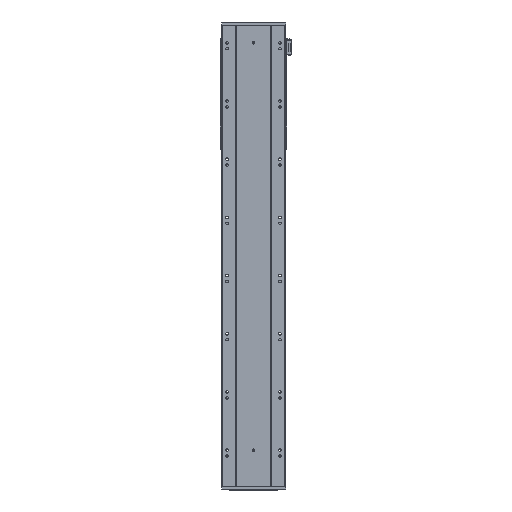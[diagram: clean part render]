
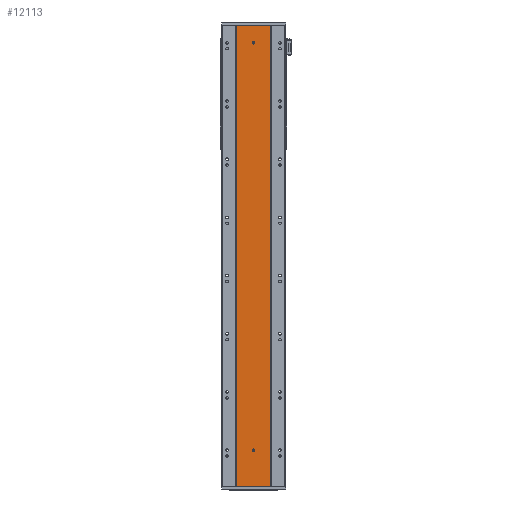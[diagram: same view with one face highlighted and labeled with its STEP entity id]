
A CAD part, front view. The second image highlights one B-rep face of the part: STEP entity #12113.
In plain terms, the highlighted planar face has unit normal (0, -1, 0).
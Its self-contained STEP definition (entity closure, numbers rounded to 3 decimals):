
#884 = EDGE_CURVE ( 'NONE', #15573, #8876, #24154, .T. ) ;
#1717 = VERTEX_POINT ( 'NONE', #15585 ) ;
#2284 = DIRECTION ( 'NONE',  ( 0., -1., 0. ) ) ;
#2329 = EDGE_LOOP ( 'NONE', ( #3212, #24501 ) ) ;
#3212 = ORIENTED_EDGE ( 'NONE', *, *, #34471, .F. ) ;
#3391 = DIRECTION ( 'NONE',  ( 0., 1., 0. ) ) ;
#3586 = DIRECTION ( 'NONE',  ( 0., 0., 1. ) ) ;
#4422 = CIRCLE ( 'NONE', #38864, 4. ) ;
#4902 = EDGE_LOOP ( 'NONE', ( #42309, #10682, #44506, #43891 ) ) ;
#5000 = CARTESIAN_POINT ( 'NONE',  ( 60., 0., 0. ) ) ;
#6158 = CARTESIAN_POINT ( 'NONE',  ( 60., 0., 1585. ) ) ;
#6640 = EDGE_CURVE ( 'NONE', #38636, #1717, #50674, .T. ) ;
#7874 = CIRCLE ( 'NONE', #11032, 4. ) ;
#7944 = CARTESIAN_POINT ( 'NONE',  ( -60., 0., 0. ) ) ;
#8021 = FACE_BOUND ( 'NONE', #58144, .T. ) ;
#8876 = VERTEX_POINT ( 'NONE', #31190 ) ;
#9149 = PLANE ( 'NONE',  #22579 ) ;
#10682 = ORIENTED_EDGE ( 'NONE', *, *, #17484, .F. ) ;
#11032 = AXIS2_PLACEMENT_3D ( 'NONE', #32084, #2284, #27190 ) ;
#12113 = ADVANCED_FACE ( 'NONE', ( #28604, #8021, #54355 ), #9149, .F. ) ;
#14121 = VERTEX_POINT ( 'NONE', #5000 ) ;
#14391 = DIRECTION ( 'NONE',  ( 0., -1., 0. ) ) ;
#15573 = VERTEX_POINT ( 'NONE', #52278 ) ;
#15585 = CARTESIAN_POINT ( 'NONE',  ( -60., 0., 0. ) ) ;
#17076 = DIRECTION ( 'NONE',  ( 0., 0., -1. ) ) ;
#17484 = EDGE_CURVE ( 'NONE', #17571, #14121, #32067, .T. ) ;
#17571 = VERTEX_POINT ( 'NONE', #43253 ) ;
#19300 = DIRECTION ( 'NONE',  ( 0., 0., -1. ) ) ;
#22248 = ORIENTED_EDGE ( 'NONE', *, *, #61250, .F. ) ;
#22579 = AXIS2_PLACEMENT_3D ( 'NONE', #37854, #3391, #3586 ) ;
#22852 = DIRECTION ( 'NONE',  ( 1., 0., 0. ) ) ;
#22939 = VECTOR ( 'NONE', #55164, 1000. ) ;
#23681 = DIRECTION ( 'NONE',  ( 0., 0., -1. ) ) ;
#24154 = CIRCLE ( 'NONE', #62681, 4. ) ;
#24501 = ORIENTED_EDGE ( 'NONE', *, *, #41453, .F. ) ;
#24626 = LINE ( 'NONE', #58155, #45858 ) ;
#25860 = CARTESIAN_POINT ( 'NONE',  ( 0., 0., 1525. ) ) ;
#26304 = VERTEX_POINT ( 'NONE', #62048 ) ;
#26370 = VECTOR ( 'NONE', #23681, 1000. ) ;
#26561 = DIRECTION ( 'NONE',  ( 0., -1., 0. ) ) ;
#27190 = DIRECTION ( 'NONE',  ( 0., 0., -1. ) ) ;
#27749 = ORIENTED_EDGE ( 'NONE', *, *, #884, .F. ) ;
#28034 = EDGE_CURVE ( 'NONE', #1717, #14121, #59694, .T. ) ;
#28604 = FACE_BOUND ( 'NONE', #2329, .T. ) ;
#30755 = DIRECTION ( 'NONE',  ( 0., -1., 0. ) ) ;
#31190 = CARTESIAN_POINT ( 'NONE',  ( 0., 0., 129. ) ) ;
#32067 = LINE ( 'NONE', #6158, #22939 ) ;
#32084 = CARTESIAN_POINT ( 'NONE',  ( 0., 0., 1525. ) ) ;
#34471 = EDGE_CURVE ( 'NONE', #26304, #45469, #7874, .T. ) ;
#37854 = CARTESIAN_POINT ( 'NONE',  ( -60., 0., 1585. ) ) ;
#38636 = VERTEX_POINT ( 'NONE', #46850 ) ;
#38864 = AXIS2_PLACEMENT_3D ( 'NONE', #43452, #14391, #19300 ) ;
#40598 = CARTESIAN_POINT ( 'NONE',  ( 0., 0., 125. ) ) ;
#41453 = EDGE_CURVE ( 'NONE', #45469, #26304, #56508, .T. ) ;
#42278 = EDGE_CURVE ( 'NONE', #38636, #17571, #24626, .T. ) ;
#42309 = ORIENTED_EDGE ( 'NONE', *, *, #28034, .T. ) ;
#43253 = CARTESIAN_POINT ( 'NONE',  ( 60., 0., 1585. ) ) ;
#43452 = CARTESIAN_POINT ( 'NONE',  ( 0., 0., 125. ) ) ;
#43891 = ORIENTED_EDGE ( 'NONE', *, *, #6640, .T. ) ;
#44506 = ORIENTED_EDGE ( 'NONE', *, *, #42278, .F. ) ;
#45469 = VERTEX_POINT ( 'NONE', #53841 ) ;
#45858 = VECTOR ( 'NONE', #48683, 1000. ) ;
#46850 = CARTESIAN_POINT ( 'NONE',  ( -60., 0., 1585. ) ) ;
#46873 = VECTOR ( 'NONE', #22852, 1000. ) ;
#48167 = AXIS2_PLACEMENT_3D ( 'NONE', #25860, #30755, #54457 ) ;
#48683 = DIRECTION ( 'NONE',  ( 1., 0., 0. ) ) ;
#50674 = LINE ( 'NONE', #52696, #26370 ) ;
#52278 = CARTESIAN_POINT ( 'NONE',  ( 0., 0., 121. ) ) ;
#52696 = CARTESIAN_POINT ( 'NONE',  ( -60., 0., 1585. ) ) ;
#53841 = CARTESIAN_POINT ( 'NONE',  ( 0., 0., 1529. ) ) ;
#54355 = FACE_OUTER_BOUND ( 'NONE', #4902, .T. ) ;
#54457 = DIRECTION ( 'NONE',  ( 0., 0., -1. ) ) ;
#55164 = DIRECTION ( 'NONE',  ( 0., 0., -1. ) ) ;
#56508 = CIRCLE ( 'NONE', #48167, 4. ) ;
#58144 = EDGE_LOOP ( 'NONE', ( #27749, #22248 ) ) ;
#58155 = CARTESIAN_POINT ( 'NONE',  ( -60., 0., 1585. ) ) ;
#59694 = LINE ( 'NONE', #7944, #46873 ) ;
#61250 = EDGE_CURVE ( 'NONE', #8876, #15573, #4422, .T. ) ;
#62048 = CARTESIAN_POINT ( 'NONE',  ( 0., 0., 1521. ) ) ;
#62681 = AXIS2_PLACEMENT_3D ( 'NONE', #40598, #26561, #17076 ) ;
